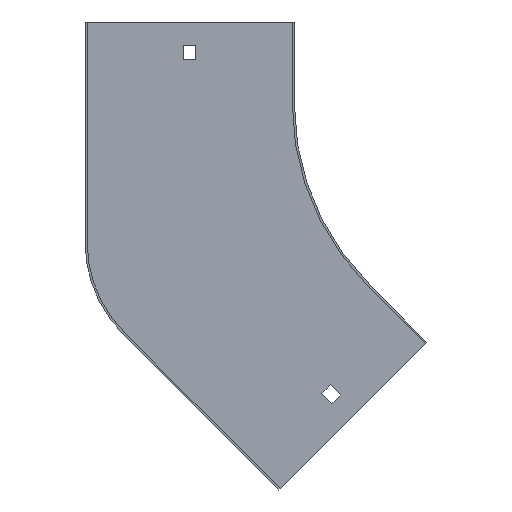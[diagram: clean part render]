
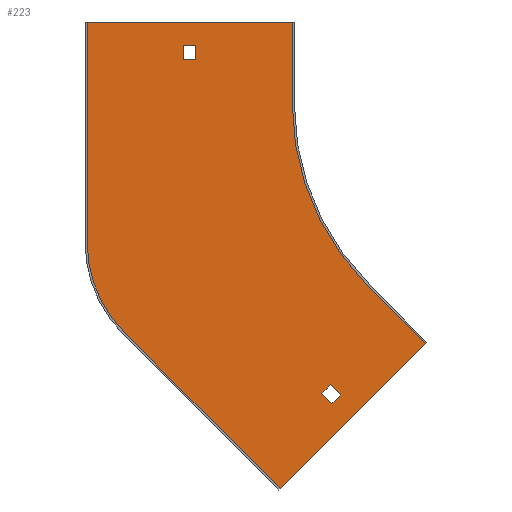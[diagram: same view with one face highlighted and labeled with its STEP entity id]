
A CAD part, front view. The second image highlights one B-rep face of the part: STEP entity #223.
In plain terms, the highlighted planar face has unit normal (0, -1, 0).
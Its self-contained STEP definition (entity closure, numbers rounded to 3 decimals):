
#6 = VECTOR ( 'NONE', #801, 1000. ) ;
#8 = VERTEX_POINT ( 'NONE', #692 ) ;
#21 = CARTESIAN_POINT ( 'NONE',  ( -130.815, -1., -187.383 ) ) ;
#23 = EDGE_CURVE ( 'NONE', #8, #164, #605, .T. ) ;
#28 = DIRECTION ( 'NONE',  ( 0.707, 0., -0.707 ) ) ;
#32 = DIRECTION ( 'NONE',  ( 0.707, 0., -0.707 ) ) ;
#38 = CARTESIAN_POINT ( 'NONE',  ( -88.388, -1., -88.388 ) ) ;
#44 = EDGE_CURVE ( 'NONE', #713, #8, #435, .T. ) ;
#56 = VECTOR ( 'NONE', #313, 1000. ) ;
#68 = FACE_BOUND ( 'NONE', #138, .T. ) ;
#78 = LINE ( 'NONE', #460, #805 ) ;
#86 = CARTESIAN_POINT ( 'NONE',  ( -172., -1., 21.5 ) ) ;
#98 = CARTESIAN_POINT ( 'NONE',  ( -125., -1., 0. ) ) ;
#108 = VECTOR ( 'NONE', #116, 1000. ) ;
#109 = VERTEX_POINT ( 'NONE', #637 ) ;
#115 = ORIENTED_EDGE ( 'NONE', *, *, #666, .F. ) ;
#116 = DIRECTION ( 'NONE',  ( 0., 0., -1. ) ) ;
#129 = EDGE_CURVE ( 'NONE', #434, #543, #175, .T. ) ;
#138 = EDGE_LOOP ( 'NONE', ( #693, #475, #115, #411 ) ) ;
#139 = CARTESIAN_POINT ( 'NONE',  ( 0., -1., 0. ) ) ;
#140 = CIRCLE ( 'NONE', #257, 125. ) ;
#155 = FACE_OUTER_BOUND ( 'NONE', #575, .T. ) ;
#163 = DIRECTION ( 'NONE',  ( 0., 0., -1. ) ) ;
#164 = VERTEX_POINT ( 'NONE', #424 ) ;
#167 = LINE ( 'NONE', #644, #56 ) ;
#171 = CARTESIAN_POINT ( 'NONE',  ( -88.388, -1., -88.388 ) ) ;
#175 = LINE ( 'NONE', #769, #789 ) ;
#177 = EDGE_CURVE ( 'NONE', #444, #713, #835, .T. ) ;
#187 = CARTESIAN_POINT ( 'NONE',  ( 0., -1., 21.5 ) ) ;
#189 = CARTESIAN_POINT ( 'NONE',  ( -225., -1., 40. ) ) ;
#208 = DIRECTION ( 'NONE',  ( -0.707, 0., 0.707 ) ) ;
#214 = CARTESIAN_POINT ( 'NONE',  ( -110.662, -1., -141.068 ) ) ;
#223 = ADVANCED_FACE ( 'NONE', ( #68, #155, #684 ), #621, .T. ) ;
#225 = DIRECTION ( 'NONE',  ( 0., 1., 0. ) ) ;
#227 = VECTOR ( 'NONE', #208, 1000. ) ;
#228 = DIRECTION ( 'NONE',  ( 0., -1., 0. ) ) ;
#246 = ORIENTED_EDGE ( 'NONE', *, *, #516, .T. ) ;
#253 = CARTESIAN_POINT ( 'NONE',  ( -125., -1., 40. ) ) ;
#254 = VERTEX_POINT ( 'NONE', #466 ) ;
#256 = CARTESIAN_POINT ( 'NONE',  ( -60.104, -1., -116.673 ) ) ;
#257 = AXIS2_PLACEMENT_3D ( 'NONE', #811, #463, #727 ) ;
#259 = ORIENTED_EDGE ( 'NONE', *, *, #792, .T. ) ;
#273 = AXIS2_PLACEMENT_3D ( 'NONE', #139, #228, #163 ) ;
#276 = DIRECTION ( 'NONE',  ( -0.707, 0., 0.707 ) ) ;
#297 = CARTESIAN_POINT ( 'NONE',  ( -225., -1., -67.31 ) ) ;
#299 = LINE ( 'NONE', #187, #542 ) ;
#306 = VERTEX_POINT ( 'NONE', #297 ) ;
#313 = DIRECTION ( 'NONE',  ( 0., 0., 1. ) ) ;
#315 = VERTEX_POINT ( 'NONE', #348 ) ;
#322 = VERTEX_POINT ( 'NONE', #98 ) ;
#341 = CARTESIAN_POINT ( 'NONE',  ( -178., -1., 0. ) ) ;
#348 = CARTESIAN_POINT ( 'NONE',  ( -106.42, -1., -136.825 ) ) ;
#354 = ORIENTED_EDGE ( 'NONE', *, *, #418, .T. ) ;
#372 = LINE ( 'NONE', #823, #791 ) ;
#373 = VECTOR ( 'NONE', #531, 1000. ) ;
#375 = EDGE_CURVE ( 'NONE', #164, #306, #778, .T. ) ;
#377 = CARTESIAN_POINT ( 'NONE',  ( -105.712, -1., -146.018 ) ) ;
#397 = AXIS2_PLACEMENT_3D ( 'NONE', #638, #225, #737 ) ;
#400 = LINE ( 'NONE', #341, #373 ) ;
#406 = VECTOR ( 'NONE', #797, 1000. ) ;
#407 = EDGE_CURVE ( 'NONE', #543, #315, #419, .T. ) ;
#411 = ORIENTED_EDGE ( 'NONE', *, *, #598, .F. ) ;
#417 = CARTESIAN_POINT ( 'NONE',  ( -178., -1., 28.5 ) ) ;
#418 = EDGE_CURVE ( 'NONE', #109, #656, #400, .T. ) ;
#419 = LINE ( 'NONE', #562, #510 ) ;
#423 = EDGE_CURVE ( 'NONE', #322, #444, #140, .T. ) ;
#424 = CARTESIAN_POINT ( 'NONE',  ( -206.694, -1., -111.504 ) ) ;
#433 = DIRECTION ( 'NONE',  ( 0.707, 0., 0.707 ) ) ;
#434 = VERTEX_POINT ( 'NONE', #377 ) ;
#435 = LINE ( 'NONE', #505, #803 ) ;
#444 = VERTEX_POINT ( 'NONE', #38 ) ;
#446 = CARTESIAN_POINT ( 'NONE',  ( -226., -1., 40. ) ) ;
#447 = VERTEX_POINT ( 'NONE', #253 ) ;
#448 = VERTEX_POINT ( 'NONE', #189 ) ;
#460 = CARTESIAN_POINT ( 'NONE',  ( 15.203, -1., -15.203 ) ) ;
#463 = DIRECTION ( 'NONE',  ( 0., -1., 0. ) ) ;
#466 = CARTESIAN_POINT ( 'NONE',  ( -172., -1., 28.5 ) ) ;
#475 = ORIENTED_EDGE ( 'NONE', *, *, #129, .F. ) ;
#490 = ORIENTED_EDGE ( 'NONE', *, *, #675, .T. ) ;
#505 = CARTESIAN_POINT ( 'NONE',  ( -59.397, -1., -115.966 ) ) ;
#506 = DIRECTION ( 'NONE',  ( -1., 0., 0. ) ) ;
#510 = VECTOR ( 'NONE', #276, 1000. ) ;
#512 = LINE ( 'NONE', #446, #406 ) ;
#516 = EDGE_CURVE ( 'NONE', #254, #680, #807, .T. ) ;
#520 = VERTEX_POINT ( 'NONE', #214 ) ;
#531 = DIRECTION ( 'NONE',  ( 0., 0., 1. ) ) ;
#542 = VECTOR ( 'NONE', #506, 1000. ) ;
#543 = VERTEX_POINT ( 'NONE', #741 ) ;
#545 = ORIENTED_EDGE ( 'NONE', *, *, #177, .F. ) ;
#562 = CARTESIAN_POINT ( 'NONE',  ( -121.622, -1., -121.622 ) ) ;
#575 = EDGE_LOOP ( 'NONE', ( #652, #776, #595, #837, #594, #545, #596, #761 ) ) ;
#594 = ORIENTED_EDGE ( 'NONE', *, *, #44, .F. ) ;
#595 = ORIENTED_EDGE ( 'NONE', *, *, #375, .F. ) ;
#596 = ORIENTED_EDGE ( 'NONE', *, *, #423, .F. ) ;
#598 = EDGE_CURVE ( 'NONE', #315, #520, #78, .T. ) ;
#600 = CARTESIAN_POINT ( 'NONE',  ( -172., -1., 0. ) ) ;
#603 = VECTOR ( 'NONE', #32, 1000. ) ;
#605 = LINE ( 'NONE', #21, #227 ) ;
#621 = PLANE ( 'NONE',  #273 ) ;
#635 = DIRECTION ( 'NONE',  ( -0.707, 0., -0.707 ) ) ;
#637 = CARTESIAN_POINT ( 'NONE',  ( -178., -1., 21.5 ) ) ;
#638 = CARTESIAN_POINT ( 'NONE',  ( -162.5, -1., -67.31 ) ) ;
#644 = CARTESIAN_POINT ( 'NONE',  ( -225., -1., -67.31 ) ) ;
#650 = LINE ( 'NONE', #862, #108 ) ;
#652 = ORIENTED_EDGE ( 'NONE', *, *, #854, .F. ) ;
#655 = VECTOR ( 'NONE', #660, 1000. ) ;
#656 = VERTEX_POINT ( 'NONE', #417 ) ;
#660 = DIRECTION ( 'NONE',  ( 1., 0., 0. ) ) ;
#666 = EDGE_CURVE ( 'NONE', #520, #434, #372, .T. ) ;
#675 = EDGE_CURVE ( 'NONE', #680, #109, #299, .T. ) ;
#680 = VERTEX_POINT ( 'NONE', #86 ) ;
#684 = FACE_BOUND ( 'NONE', #724, .T. ) ;
#692 = CARTESIAN_POINT ( 'NONE',  ( -130.815, -1., -187.383 ) ) ;
#693 = ORIENTED_EDGE ( 'NONE', *, *, #407, .F. ) ;
#713 = VERTEX_POINT ( 'NONE', #256 ) ;
#724 = EDGE_LOOP ( 'NONE', ( #259, #246, #490, #354 ) ) ;
#726 = LINE ( 'NONE', #850, #655 ) ;
#727 = DIRECTION ( 'NONE',  ( 0., 0., -1. ) ) ;
#733 = DIRECTION ( 'NONE',  ( -0.707, 0., -0.707 ) ) ;
#737 = DIRECTION ( 'NONE',  ( 0., 0., -1. ) ) ;
#741 = CARTESIAN_POINT ( 'NONE',  ( -101.47, -1., -141.775 ) ) ;
#761 = ORIENTED_EDGE ( 'NONE', *, *, #860, .F. ) ;
#767 = EDGE_CURVE ( 'NONE', #306, #448, #167, .T. ) ;
#769 = CARTESIAN_POINT ( 'NONE',  ( 20.153, -1., -20.153 ) ) ;
#776 = ORIENTED_EDGE ( 'NONE', *, *, #767, .F. ) ;
#778 = CIRCLE ( 'NONE', #397, 62.5 ) ;
#789 = VECTOR ( 'NONE', #433, 1000. ) ;
#791 = VECTOR ( 'NONE', #28, 1000. ) ;
#792 = EDGE_CURVE ( 'NONE', #656, #254, #726, .T. ) ;
#797 = DIRECTION ( 'NONE',  ( 1., 0., 0. ) ) ;
#801 = DIRECTION ( 'NONE',  ( 0., 0., -1. ) ) ;
#803 = VECTOR ( 'NONE', #635, 1000. ) ;
#805 = VECTOR ( 'NONE', #733, 1000. ) ;
#807 = LINE ( 'NONE', #600, #6 ) ;
#811 = CARTESIAN_POINT ( 'NONE',  ( 0., -1., 0. ) ) ;
#823 = CARTESIAN_POINT ( 'NONE',  ( -125.865, -1., -125.865 ) ) ;
#835 = LINE ( 'NONE', #171, #603 ) ;
#837 = ORIENTED_EDGE ( 'NONE', *, *, #23, .F. ) ;
#850 = CARTESIAN_POINT ( 'NONE',  ( 0., -1., 28.5 ) ) ;
#854 = EDGE_CURVE ( 'NONE', #448, #447, #512, .T. ) ;
#860 = EDGE_CURVE ( 'NONE', #447, #322, #650, .T. ) ;
#862 = CARTESIAN_POINT ( 'NONE',  ( -125., -1., 40. ) ) ;
